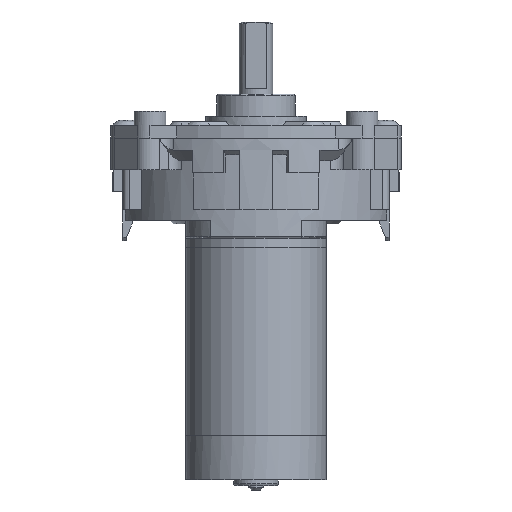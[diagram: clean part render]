
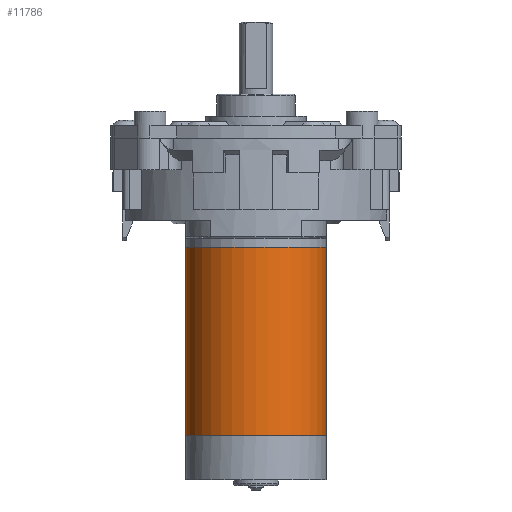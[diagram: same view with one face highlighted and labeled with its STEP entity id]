
A CAD part, front view. The second image highlights one B-rep face of the part: STEP entity #11786.
In plain terms, the highlighted cylindrical face has radius 20 mm (diameter 40 mm), a full revolution.
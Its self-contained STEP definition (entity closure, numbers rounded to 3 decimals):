
#745=FACE_BOUND('',#2586,.T.);
#943=CYLINDRICAL_SURFACE('',#13066,20.);
#1658=FACE_OUTER_BOUND('',#2585,.T.);
#2585=EDGE_LOOP('',(#10565));
#2586=EDGE_LOOP('',(#10566));
#4648=CIRCLE('',#13067,20.);
#4649=CIRCLE('',#13068,20.);
#5762=VERTEX_POINT('',#21981);
#5763=VERTEX_POINT('',#21983);
#7378=EDGE_CURVE('',#5762,#5762,#4648,.T.);
#7379=EDGE_CURVE('',#5763,#5763,#4649,.T.);
#10565=ORIENTED_EDGE('',*,*,#7378,.T.);
#10566=ORIENTED_EDGE('',*,*,#7379,.F.);
#11786=ADVANCED_FACE('',(#1658,#745),#943,.T.);
#13066=AXIS2_PLACEMENT_3D('',#21980,#16292,#16293);
#13067=AXIS2_PLACEMENT_3D('',#21982,#16294,#16295);
#13068=AXIS2_PLACEMENT_3D('',#21984,#16296,#16297);
#16292=DIRECTION('center_axis',(0.,0.,1.));
#16293=DIRECTION('ref_axis',(-1.,0.,0.));
#16294=DIRECTION('center_axis',(0.,0.,-1.));
#16295=DIRECTION('ref_axis',(-1.,0.,0.));
#16296=DIRECTION('center_axis',(0.,0.,-1.));
#16297=DIRECTION('ref_axis',(-1.,0.,0.));
#21980=CARTESIAN_POINT('Origin',(0.,0.,0.));
#21981=CARTESIAN_POINT('',(20.,0.,53.5));
#21982=CARTESIAN_POINT('Origin',(0.,0.,53.5));
#21983=CARTESIAN_POINT('',(20.,0.,0.));
#21984=CARTESIAN_POINT('Origin',(0.,0.,0.));
